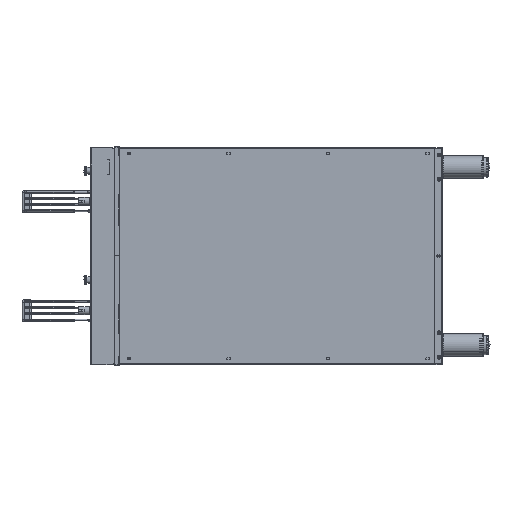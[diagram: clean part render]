
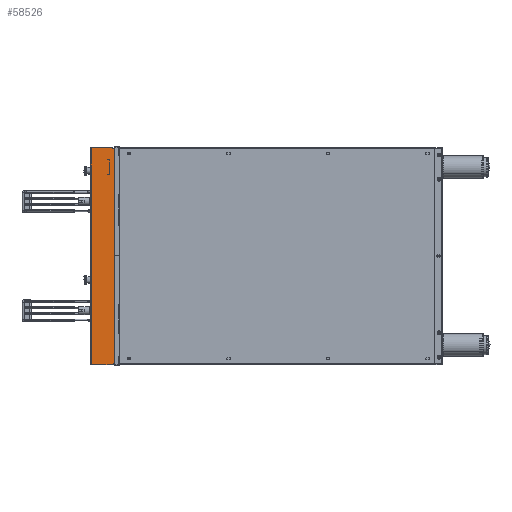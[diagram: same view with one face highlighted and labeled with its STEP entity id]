
A CAD part, left-side view. The second image highlights one B-rep face of the part: STEP entity #58526.
In plain terms, the highlighted planar face has unit normal (-1, 0, 0).
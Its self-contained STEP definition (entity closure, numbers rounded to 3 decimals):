
#1013 = CARTESIAN_POINT ( 'NONE',  ( -118.811, 461.822, 489.331 ) ) ;
#1331 = DIRECTION ( 'NONE',  ( 0., 0., -1. ) ) ;
#2658 = CARTESIAN_POINT ( 'NONE',  ( -118.811, 409.322, 489.331 ) ) ;
#4044 = CIRCLE ( 'NONE', #80572, 5. ) ;
#6281 = FACE_OUTER_BOUND ( 'NONE', #67732, .T. ) ;
#7452 = AXIS2_PLACEMENT_3D ( 'NONE', #47434, #72582, #71199 ) ;
#9344 = DIRECTION ( 'NONE',  ( 0., 0., -1. ) ) ;
#9368 = EDGE_CURVE ( 'NONE', #74903, #65273, #19530, .T. ) ;
#10316 = CARTESIAN_POINT ( 'NONE',  ( -118.821, 409.322, 2.331 ) ) ;
#11555 = LINE ( 'NONE', #56715, #57809 ) ;
#14370 = EDGE_CURVE ( 'NONE', #74903, #62842, #79106, .T. ) ;
#14660 = CARTESIAN_POINT ( 'NONE',  ( -118.811, 462.822, 489.331 ) ) ;
#14761 = DIRECTION ( 'NONE',  ( -1., 0., 0. ) ) ;
#18972 = EDGE_CURVE ( 'NONE', #30422, #34062, #30101, .T. ) ;
#19530 = LINE ( 'NONE', #14660, #34226 ) ;
#20335 = ORIENTED_EDGE ( 'NONE', *, *, #48204, .T. ) ;
#22026 = AXIS2_PLACEMENT_3D ( 'NONE', #59689, #22040, #65978 ) ;
#22040 = DIRECTION ( 'NONE',  ( 1., 0., 0. ) ) ;
#23191 = EDGE_CURVE ( 'NONE', #57663, #34062, #64397, .T. ) ;
#28947 = VECTOR ( 'NONE', #9344, 1000. ) ;
#30101 = LINE ( 'NONE', #2658, #46814 ) ;
#30422 = VERTEX_POINT ( 'NONE', #32796 ) ;
#32796 = CARTESIAN_POINT ( 'NONE',  ( -118.811, 409.322, 484.331 ) ) ;
#34062 = VERTEX_POINT ( 'NONE', #10316 ) ;
#34226 = VECTOR ( 'NONE', #64186, 1000. ) ;
#34756 = CARTESIAN_POINT ( 'NONE',  ( -118.821, 461.822, -2.669 ) ) ;
#42481 = ORIENTED_EDGE ( 'NONE', *, *, #69683, .T. ) ;
#46814 = VECTOR ( 'NONE', #1331, 1000. ) ;
#47434 = CARTESIAN_POINT ( 'NONE',  ( -118.821, 414.322, 2.331 ) ) ;
#48204 = EDGE_CURVE ( 'NONE', #30422, #65273, #4044, .T. ) ;
#52413 = CARTESIAN_POINT ( 'NONE',  ( -118.811, 414.322, 484.331 ) ) ;
#53039 = PLANE ( 'NONE',  #22026 ) ;
#54407 = ORIENTED_EDGE ( 'NONE', *, *, #18972, .F. ) ;
#56715 = CARTESIAN_POINT ( 'NONE',  ( -118.821, 462.822, -2.669 ) ) ;
#57515 = CARTESIAN_POINT ( 'NONE',  ( -118.821, 414.322, -2.669 ) ) ;
#57663 = VERTEX_POINT ( 'NONE', #57515 ) ;
#57809 = VECTOR ( 'NONE', #75725, 1000. ) ;
#58526 = ADVANCED_FACE ( 'NONE', ( #6281 ), #53039, .F. ) ;
#58752 = DIRECTION ( 'NONE',  ( 0., 0., -1. ) ) ;
#59689 = CARTESIAN_POINT ( 'NONE',  ( -118.811, 462.822, 489.331 ) ) ;
#62842 = VERTEX_POINT ( 'NONE', #34756 ) ;
#64186 = DIRECTION ( 'NONE',  ( 0., -1., 0. ) ) ;
#64308 = CARTESIAN_POINT ( 'NONE',  ( -118.811, 461.822, 489.331 ) ) ;
#64397 = CIRCLE ( 'NONE', #7452, 5. ) ;
#65273 = VERTEX_POINT ( 'NONE', #65661 ) ;
#65661 = CARTESIAN_POINT ( 'NONE',  ( -118.811, 414.322, 489.331 ) ) ;
#65978 = DIRECTION ( 'NONE',  ( 0., 0., -1. ) ) ;
#67732 = EDGE_LOOP ( 'NONE', ( #54407, #20335, #79545, #76151, #42481, #78659 ) ) ;
#69683 = EDGE_CURVE ( 'NONE', #62842, #57663, #11555, .T. ) ;
#71199 = DIRECTION ( 'NONE',  ( 0., 0., -1. ) ) ;
#72582 = DIRECTION ( 'NONE',  ( -1., 0., 0. ) ) ;
#74903 = VERTEX_POINT ( 'NONE', #64308 ) ;
#75725 = DIRECTION ( 'NONE',  ( 0., -1., 0. ) ) ;
#76151 = ORIENTED_EDGE ( 'NONE', *, *, #14370, .T. ) ;
#78659 = ORIENTED_EDGE ( 'NONE', *, *, #23191, .T. ) ;
#79106 = LINE ( 'NONE', #1013, #28947 ) ;
#79545 = ORIENTED_EDGE ( 'NONE', *, *, #9368, .F. ) ;
#80572 = AXIS2_PLACEMENT_3D ( 'NONE', #52413, #14761, #58752 ) ;
